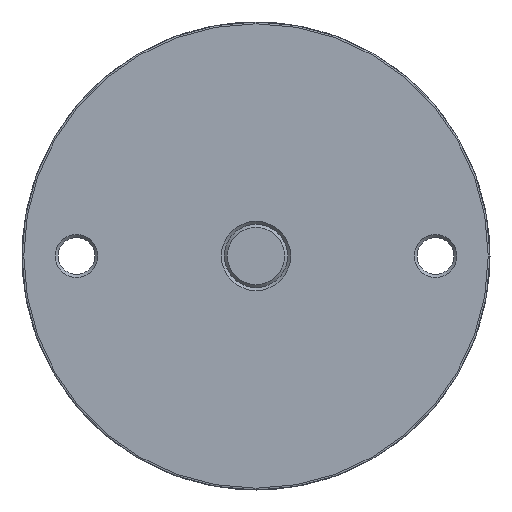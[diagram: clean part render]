
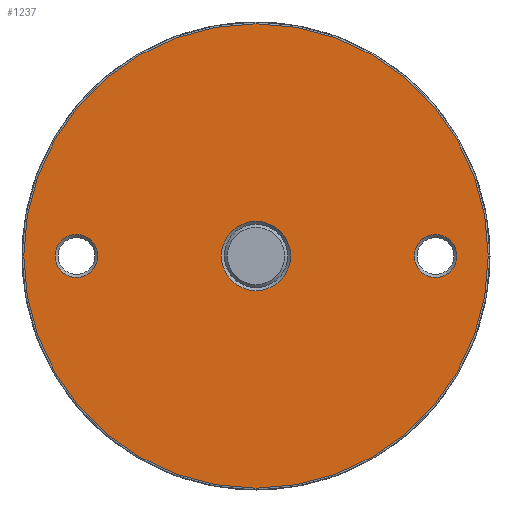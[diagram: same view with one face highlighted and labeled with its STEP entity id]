
A CAD part, left-side view. The second image highlights one B-rep face of the part: STEP entity #1237.
In plain terms, the highlighted planar face has unit normal (-1, 0, 0).
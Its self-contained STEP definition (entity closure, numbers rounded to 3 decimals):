
#295=CARTESIAN_POINT('',(-522.437,-488.109,78.9));
#296=VERTEX_POINT('',#295);
#304=CARTESIAN_POINT('',(-522.437,-488.109,-78.9));
#305=VERTEX_POINT('',#304);
#306=CARTESIAN_POINT('',(-522.437,-488.109,0.0));
#307=DIRECTION('',(-1.0,0.0,0.0));
#308=DIRECTION('',(0.0,0.0,1.0));
#309=AXIS2_PLACEMENT_3D('',#306,#307,#308);
#310=CIRCLE('',#309,78.9);
#311=EDGE_CURVE('',#305,#296,#310,.T.);
#313=CARTESIAN_POINT('',(-522.437,-488.109,0.0));
#314=DIRECTION('',(-1.0,0.0,0.0));
#315=DIRECTION('',(0.0,0.0,1.0));
#316=AXIS2_PLACEMENT_3D('',#313,#314,#315);
#317=CIRCLE('',#316,78.9);
#318=EDGE_CURVE('',#296,#305,#317,.T.);
#701=CARTESIAN_POINT('',(-522.437,-499.859,0.0));
#702=VERTEX_POINT('',#701);
#703=CARTESIAN_POINT('',(-522.437,-476.359,0.0));
#704=VERTEX_POINT('',#703);
#705=CARTESIAN_POINT('',(-522.437,-488.109,0.0));
#706=DIRECTION('',(1.0,0.0,0.0));
#707=DIRECTION('',(0.0,1.0,0.0));
#708=AXIS2_PLACEMENT_3D('',#705,#706,#707);
#709=CIRCLE('',#708,11.75);
#710=EDGE_CURVE('',#702,#704,#709,.T.);
#712=CARTESIAN_POINT('',(-522.437,-488.109,0.0));
#713=DIRECTION('',(1.0,0.0,0.0));
#714=DIRECTION('',(0.0,1.0,0.0));
#715=AXIS2_PLACEMENT_3D('',#712,#713,#714);
#716=CIRCLE('',#715,11.75);
#717=EDGE_CURVE('',#704,#702,#716,.T.);
#1184=CARTESIAN_POINT('',(-522.437,-645.909,157.8));
#1185=DIRECTION('',(-1.0,0.0,0.0));
#1186=DIRECTION('',(0.0,1.0,0.0));
#1187=AXIS2_PLACEMENT_3D('',#1184,#1185,#1186);
#1188=PLANE('',#1187);
#1189=ORIENTED_EDGE('',*,*,#318,.T.);
#1190=ORIENTED_EDGE('',*,*,#311,.T.);
#1191=EDGE_LOOP('',(#1189,#1190));
#1192=FACE_OUTER_BOUND('',#1191,.T.);
#1193=ORIENTED_EDGE('',*,*,#717,.T.);
#1194=ORIENTED_EDGE('',*,*,#710,.T.);
#1195=EDGE_LOOP('',(#1193,#1194));
#1196=FACE_BOUND('',#1195,.T.);
#1197=CARTESIAN_POINT('',(-522.437,-541.859,0.0));
#1198=VERTEX_POINT('',#1197);
#1199=CARTESIAN_POINT('',(-522.437,-556.359,0.0));
#1200=VERTEX_POINT('',#1199);
#1201=CARTESIAN_POINT('',(-522.437,-549.109,0.0));
#1202=DIRECTION('',(1.0,0.0,0.0));
#1203=DIRECTION('',(0.0,1.0,0.0));
#1204=AXIS2_PLACEMENT_3D('',#1201,#1202,#1203);
#1205=CIRCLE('',#1204,7.25);
#1206=EDGE_CURVE('',#1198,#1200,#1205,.T.);
#1207=ORIENTED_EDGE('',*,*,#1206,.T.);
#1208=CARTESIAN_POINT('',(-522.437,-549.109,0.0));
#1209=DIRECTION('',(1.0,0.0,0.0));
#1210=DIRECTION('',(0.0,1.0,0.0));
#1211=AXIS2_PLACEMENT_3D('',#1208,#1209,#1210);
#1212=CIRCLE('',#1211,7.25);
#1213=EDGE_CURVE('',#1200,#1198,#1212,.T.);
#1214=ORIENTED_EDGE('',*,*,#1213,.T.);
#1215=EDGE_LOOP('',(#1207,#1214));
#1216=FACE_BOUND('',#1215,.T.);
#1217=CARTESIAN_POINT('',(-522.437,-419.859,0.0));
#1218=VERTEX_POINT('',#1217);
#1219=CARTESIAN_POINT('',(-522.437,-434.359,0.0));
#1220=VERTEX_POINT('',#1219);
#1221=CARTESIAN_POINT('',(-522.437,-427.109,0.0));
#1222=DIRECTION('',(1.0,0.0,0.0));
#1223=DIRECTION('',(0.0,1.0,0.0));
#1224=AXIS2_PLACEMENT_3D('',#1221,#1222,#1223);
#1225=CIRCLE('',#1224,7.25);
#1226=EDGE_CURVE('',#1218,#1220,#1225,.T.);
#1227=ORIENTED_EDGE('',*,*,#1226,.T.);
#1228=CARTESIAN_POINT('',(-522.437,-427.109,0.0));
#1229=DIRECTION('',(1.0,0.0,0.0));
#1230=DIRECTION('',(0.0,1.0,0.0));
#1231=AXIS2_PLACEMENT_3D('',#1228,#1229,#1230);
#1232=CIRCLE('',#1231,7.25);
#1233=EDGE_CURVE('',#1220,#1218,#1232,.T.);
#1234=ORIENTED_EDGE('',*,*,#1233,.T.);
#1235=EDGE_LOOP('',(#1227,#1234));
#1236=FACE_BOUND('',#1235,.T.);
#1237=ADVANCED_FACE('',(#1192,#1196,#1216,#1236),#1188,.T.);
